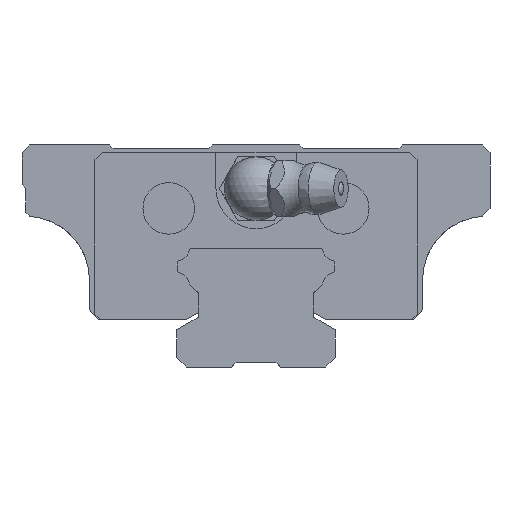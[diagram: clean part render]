
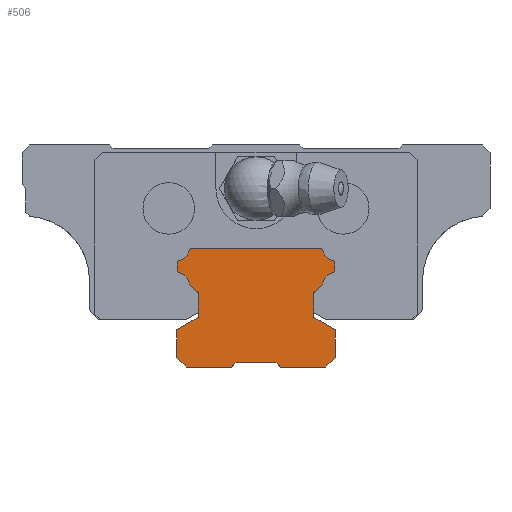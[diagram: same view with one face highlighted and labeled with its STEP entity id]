
A CAD part, front view. The second image highlights one B-rep face of the part: STEP entity #506.
In plain terms, the highlighted planar face has unit normal (0, -1, 0).
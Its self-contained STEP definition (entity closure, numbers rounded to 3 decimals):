
#307=CIRCLE('',#3867,1.8);
#309=CIRCLE('',#3873,1.8);
#312=CIRCLE('',#3899,1.8);
#314=CIRCLE('',#3905,1.8);
#506=ADVANCED_FACE('',(#832),#669,.T.);
#669=PLANE('',#3909);
#832=FACE_OUTER_BOUND('',#1042,.T.);
#1042=EDGE_LOOP('',(#1898,#1899,#1900,#1901,#1902,#1903,#1904,#1905,#1906,
#1907,#1908,#1909,#1910,#1911,#1912,#1913,#1914,#1915,#1916,#1917,#1918,
#1919,#1920,#1921,#1922,#1923,#1924,#1925));
#1898=ORIENTED_EDGE('',*,*,#2762,.T.);
#1899=ORIENTED_EDGE('',*,*,#2856,.T.);
#1900=ORIENTED_EDGE('',*,*,#2853,.T.);
#1901=ORIENTED_EDGE('',*,*,#2850,.T.);
#1902=ORIENTED_EDGE('',*,*,#2847,.F.);
#1903=ORIENTED_EDGE('',*,*,#2844,.F.);
#1904=ORIENTED_EDGE('',*,*,#2841,.T.);
#1905=ORIENTED_EDGE('',*,*,#2835,.T.);
#1906=ORIENTED_EDGE('',*,*,#2829,.T.);
#1907=ORIENTED_EDGE('',*,*,#2824,.F.);
#1908=ORIENTED_EDGE('',*,*,#2821,.T.);
#1909=ORIENTED_EDGE('',*,*,#2818,.F.);
#1910=ORIENTED_EDGE('',*,*,#2815,.F.);
#1911=ORIENTED_EDGE('',*,*,#2812,.F.);
#1912=ORIENTED_EDGE('',*,*,#2809,.F.);
#1913=ORIENTED_EDGE('',*,*,#2806,.F.);
#1914=ORIENTED_EDGE('',*,*,#2803,.F.);
#1915=ORIENTED_EDGE('',*,*,#2800,.F.);
#1916=ORIENTED_EDGE('',*,*,#2797,.T.);
#1917=ORIENTED_EDGE('',*,*,#2794,.F.);
#1918=ORIENTED_EDGE('',*,*,#2791,.T.);
#1919=ORIENTED_EDGE('',*,*,#2788,.F.);
#1920=ORIENTED_EDGE('',*,*,#2780,.F.);
#1921=ORIENTED_EDGE('',*,*,#2870,.F.);
#1922=ORIENTED_EDGE('',*,*,#2867,.F.);
#1923=ORIENTED_EDGE('',*,*,#2864,.T.);
#1924=ORIENTED_EDGE('',*,*,#2861,.T.);
#1925=ORIENTED_EDGE('',*,*,#2858,.F.);
#2322=VERTEX_POINT('',#5652);
#2323=VERTEX_POINT('',#5654);
#2340=VERTEX_POINT('',#5694);
#2341=VERTEX_POINT('',#5695);
#2348=VERTEX_POINT('',#5711);
#2350=VERTEX_POINT('',#5717);
#2352=VERTEX_POINT('',#5723);
#2354=VERTEX_POINT('',#5729);
#2356=VERTEX_POINT('',#5735);
#2358=VERTEX_POINT('',#5741);
#2360=VERTEX_POINT('',#5747);
#2362=VERTEX_POINT('',#5753);
#2364=VERTEX_POINT('',#5759);
#2366=VERTEX_POINT('',#5765);
#2368=VERTEX_POINT('',#5771);
#2370=VERTEX_POINT('',#5777);
#2372=VERTEX_POINT('',#5783);
#2374=VERTEX_POINT('',#5791);
#2377=VERTEX_POINT('',#5801);
#2378=VERTEX_POINT('',#5809);
#2380=VERTEX_POINT('',#5815);
#2382=VERTEX_POINT('',#5821);
#2384=VERTEX_POINT('',#5827);
#2386=VERTEX_POINT('',#5833);
#2388=VERTEX_POINT('',#5842);
#2390=VERTEX_POINT('',#5848);
#2392=VERTEX_POINT('',#5854);
#2394=VERTEX_POINT('',#5860);
#2762=EDGE_CURVE('',#2323,#2322,#3195,.T.);
#2780=EDGE_CURVE('',#2340,#2341,#3206,.T.);
#2788=EDGE_CURVE('',#2341,#2348,#3210,.T.);
#2791=EDGE_CURVE('',#2350,#2348,#3213,.T.);
#2794=EDGE_CURVE('',#2350,#2352,#307,.T.);
#2797=EDGE_CURVE('',#2354,#2352,#3217,.T.);
#2800=EDGE_CURVE('',#2354,#2356,#3220,.T.);
#2803=EDGE_CURVE('',#2356,#2358,#3223,.T.);
#2806=EDGE_CURVE('',#2358,#2360,#309,.T.);
#2809=EDGE_CURVE('',#2360,#2362,#3227,.T.);
#2812=EDGE_CURVE('',#2362,#2364,#3230,.T.);
#2815=EDGE_CURVE('',#2364,#2366,#3233,.T.);
#2818=EDGE_CURVE('',#2366,#2368,#3236,.T.);
#2821=EDGE_CURVE('',#2370,#2368,#3239,.T.);
#2824=EDGE_CURVE('',#2370,#2372,#3242,.T.);
#2829=EDGE_CURVE('',#2374,#2372,#3246,.T.);
#2835=EDGE_CURVE('',#2377,#2374,#3248,.T.);
#2841=EDGE_CURVE('',#2378,#2377,#3250,.T.);
#2844=EDGE_CURVE('',#2378,#2380,#3253,.T.);
#2847=EDGE_CURVE('',#2380,#2382,#3256,.T.);
#2850=EDGE_CURVE('',#2384,#2382,#3259,.T.);
#2853=EDGE_CURVE('',#2386,#2384,#3262,.T.);
#2856=EDGE_CURVE('',#2322,#2386,#3265,.T.);
#2858=EDGE_CURVE('',#2323,#2388,#312,.T.);
#2861=EDGE_CURVE('',#2390,#2388,#3268,.T.);
#2864=EDGE_CURVE('',#2392,#2390,#3271,.T.);
#2867=EDGE_CURVE('',#2392,#2394,#3274,.T.);
#2870=EDGE_CURVE('',#2394,#2340,#314,.T.);
#3195=LINE('',#5653,#3555);
#3206=LINE('',#5693,#3566);
#3210=LINE('',#5710,#3570);
#3213=LINE('',#5716,#3573);
#3217=LINE('',#5728,#3577);
#3220=LINE('',#5734,#3580);
#3223=LINE('',#5740,#3583);
#3227=LINE('',#5752,#3587);
#3230=LINE('',#5758,#3590);
#3233=LINE('',#5764,#3593);
#3236=LINE('',#5770,#3596);
#3239=LINE('',#5776,#3599);
#3242=LINE('',#5782,#3602);
#3246=LINE('',#5790,#3606);
#3248=LINE('',#5800,#3608);
#3250=LINE('',#5808,#3610);
#3253=LINE('',#5814,#3613);
#3256=LINE('',#5820,#3616);
#3259=LINE('',#5826,#3619);
#3262=LINE('',#5832,#3622);
#3265=LINE('',#5838,#3625);
#3268=LINE('',#5847,#3628);
#3271=LINE('',#5853,#3631);
#3274=LINE('',#5859,#3634);
#3555=VECTOR('',#4573,1.);
#3566=VECTOR('',#4608,1.);
#3570=VECTOR('',#4622,1.);
#3573=VECTOR('',#4627,1.);
#3577=VECTOR('',#4639,1.);
#3580=VECTOR('',#4644,1.);
#3583=VECTOR('',#4649,1.);
#3587=VECTOR('',#4661,1.);
#3590=VECTOR('',#4666,1.);
#3593=VECTOR('',#4671,1.);
#3596=VECTOR('',#4676,1.);
#3599=VECTOR('',#4681,1.);
#3602=VECTOR('',#4686,1.);
#3606=VECTOR('',#4694,1.);
#3608=VECTOR('',#4706,1.);
#3610=VECTOR('',#4718,1.);
#3613=VECTOR('',#4723,1.);
#3616=VECTOR('',#4728,1.);
#3619=VECTOR('',#4733,1.);
#3622=VECTOR('',#4738,1.);
#3625=VECTOR('',#4743,1.);
#3628=VECTOR('',#4754,1.);
#3631=VECTOR('',#4759,1.);
#3634=VECTOR('',#4764,1.);
#3867=AXIS2_PLACEMENT_3D('',#5722,#4632,#4633);
#3873=AXIS2_PLACEMENT_3D('',#5746,#4654,#4655);
#3899=AXIS2_PLACEMENT_3D('',#5841,#4747,#4748);
#3905=AXIS2_PLACEMENT_3D('',#5865,#4769,#4770);
#3909=AXIS2_PLACEMENT_3D('',#5869,#4777,#4778);
#4573=DIRECTION('',(0.707,0.,-0.707));
#4608=DIRECTION('',(0.707,0.,0.707));
#4622=DIRECTION('',(1.,0.,0.));
#4627=DIRECTION('',(-0.707,0.,0.707));
#4632=DIRECTION('',(0.,-1.,0.));
#4633=DIRECTION('',(1.,0.,0.));
#4639=DIRECTION('',(-0.707,0.,0.707));
#4644=DIRECTION('',(0.,0.,-1.));
#4649=DIRECTION('',(-0.707,0.,-0.707));
#4654=DIRECTION('',(0.,-1.,0.));
#4655=DIRECTION('',(1.,0.,0.));
#4661=DIRECTION('',(-0.707,0.,-0.707));
#4666=DIRECTION('',(0.,0.,-1.));
#4671=DIRECTION('',(0.866,0.,-0.5));
#4676=DIRECTION('',(0.,0.,-1.));
#4681=DIRECTION('',(0.707,0.,0.707));
#4686=DIRECTION('',(-1.,0.,0.));
#4694=DIRECTION('',(0.707,0.,-0.707));
#4706=DIRECTION('',(1.,0.,0.));
#4718=DIRECTION('',(0.707,0.,0.707));
#4723=DIRECTION('',(-1.,0.,0.));
#4728=DIRECTION('',(-0.707,0.,0.707));
#4733=DIRECTION('',(0.,0.,-1.));
#4738=DIRECTION('',(-0.866,0.,-0.5));
#4743=DIRECTION('',(0.,0.,-1.));
#4747=DIRECTION('',(0.,-1.,0.));
#4748=DIRECTION('',(1.,0.,0.));
#4754=DIRECTION('',(0.707,0.,-0.707));
#4759=DIRECTION('',(0.,0.,-1.));
#4764=DIRECTION('',(0.707,0.,0.707));
#4769=DIRECTION('',(0.,-1.,0.));
#4770=DIRECTION('',(1.,0.,0.));
#4777=DIRECTION('',(0.,-1.,0.));
#4778=DIRECTION('',(0.,0.,-1.));
#5652=CARTESIAN_POINT('',(-7.3,-110.,8.796));
#5653=CARTESIAN_POINT('',(-8.372,-110.,9.868));
#5654=CARTESIAN_POINT('',(-8.372,-110.,9.868));
#5693=CARTESIAN_POINT('',(-8.372,-110.,14.232));
#5694=CARTESIAN_POINT('',(-8.372,-110.,14.232));
#5695=CARTESIAN_POINT('',(-8.274,-110.,14.33));
#5710=CARTESIAN_POINT('',(0.,-110.,14.33));
#5711=CARTESIAN_POINT('',(8.274,-110.,14.33));
#5716=CARTESIAN_POINT('',(8.372,-110.,14.232));
#5717=CARTESIAN_POINT('',(8.372,-110.,14.232));
#5722=CARTESIAN_POINT('',(10.145,-110.,14.545));
#5723=CARTESIAN_POINT('',(9.832,-110.,12.772));
#5728=CARTESIAN_POINT('',(9.93,-110.,12.674));
#5729=CARTESIAN_POINT('',(9.93,-110.,12.674));
#5734=CARTESIAN_POINT('',(9.93,-110.,12.674));
#5735=CARTESIAN_POINT('',(9.93,-110.,11.426));
#5740=CARTESIAN_POINT('',(9.93,-110.,11.426));
#5741=CARTESIAN_POINT('',(9.832,-110.,11.328));
#5746=CARTESIAN_POINT('',(10.145,-110.,9.555));
#5747=CARTESIAN_POINT('',(8.372,-110.,9.868));
#5752=CARTESIAN_POINT('',(8.372,-110.,9.868));
#5753=CARTESIAN_POINT('',(7.3,-110.,8.796));
#5758=CARTESIAN_POINT('',(7.3,-110.,6.236));
#5759=CARTESIAN_POINT('',(7.3,-110.,5.659));
#5764=CARTESIAN_POINT('',(7.3,-110.,5.659));
#5765=CARTESIAN_POINT('',(10.,-110.,4.1));
#5770=CARTESIAN_POINT('',(10.,-110.,4.1));
#5771=CARTESIAN_POINT('',(10.,-110.,0.6));
#5776=CARTESIAN_POINT('',(8.8,-110.,-0.6));
#5777=CARTESIAN_POINT('',(8.8,-110.,-0.6));
#5782=CARTESIAN_POINT('',(8.8,-110.,-0.6));
#5783=CARTESIAN_POINT('',(3.1,-110.,-0.6));
#5790=CARTESIAN_POINT('',(2.5,-110.,0.));
#5791=CARTESIAN_POINT('',(2.5,-110.,0.));
#5800=CARTESIAN_POINT('',(-2.5,-110.,0.));
#5801=CARTESIAN_POINT('',(-2.5,-110.,0.));
#5808=CARTESIAN_POINT('',(-3.1,-110.,-0.6));
#5809=CARTESIAN_POINT('',(-3.1,-110.,-0.6));
#5814=CARTESIAN_POINT('',(-3.1,-110.,-0.6));
#5815=CARTESIAN_POINT('',(-8.8,-110.,-0.6));
#5820=CARTESIAN_POINT('',(-8.8,-110.,-0.6));
#5821=CARTESIAN_POINT('',(-10.,-110.,0.6));
#5826=CARTESIAN_POINT('',(-10.,-110.,4.1));
#5827=CARTESIAN_POINT('',(-10.,-110.,4.1));
#5832=CARTESIAN_POINT('',(-7.3,-110.,5.659));
#5833=CARTESIAN_POINT('',(-7.3,-110.,5.659));
#5838=CARTESIAN_POINT('',(-7.3,-110.,6.236));
#5841=CARTESIAN_POINT('',(-10.145,-110.,9.555));
#5842=CARTESIAN_POINT('',(-9.832,-110.,11.328));
#5847=CARTESIAN_POINT('',(-9.93,-110.,11.426));
#5848=CARTESIAN_POINT('',(-9.93,-110.,11.426));
#5853=CARTESIAN_POINT('',(-9.93,-110.,12.674));
#5854=CARTESIAN_POINT('',(-9.93,-110.,12.674));
#5859=CARTESIAN_POINT('',(-9.93,-110.,12.674));
#5860=CARTESIAN_POINT('',(-9.832,-110.,12.772));
#5865=CARTESIAN_POINT('',(-10.145,-110.,14.545));
#5869=CARTESIAN_POINT('',(10.145,-110.,14.545));
